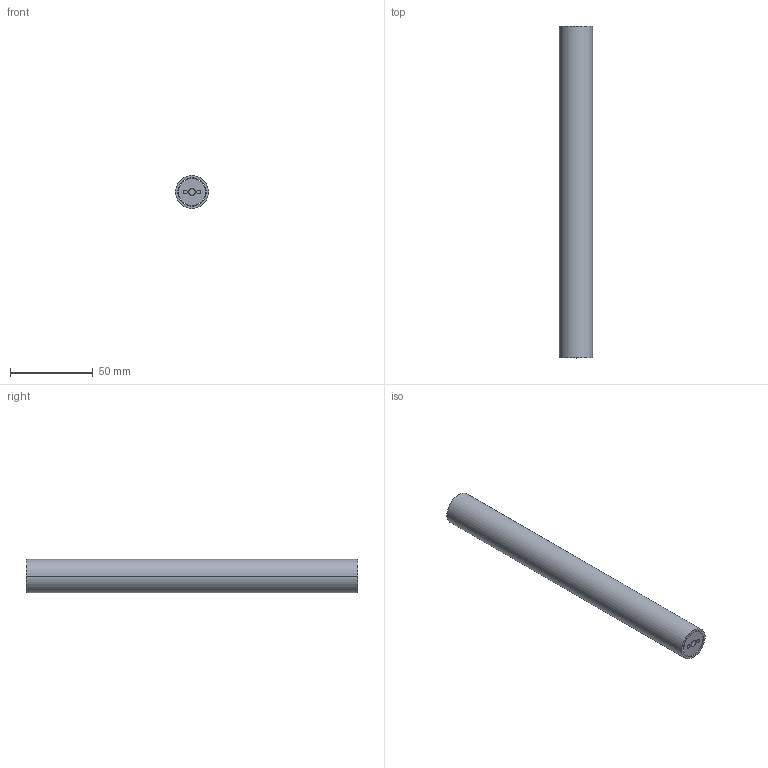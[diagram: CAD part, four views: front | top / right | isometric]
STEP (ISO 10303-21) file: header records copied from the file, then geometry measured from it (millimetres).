
FILE_DESCRIPTION((''),'2;1');
FILE_NAME('CORDINACILINDRO200','2025-05-13T11:22:01',('elena.baldelli'),(''),'CREO PARAMETRIC BY PTC INC, 2020354','CREO PARAMETRIC BY PTC INC, 2020354','');
FILE_SCHEMA(('CONFIG_CONTROL_DESIGN'));
Length unit declared in the file: millimetre
Products named in the file (1): CORDINACILINDRO200
Bounding box: 20 x 200 x 20 mm (x, y, z)
Surface area: 23622.1 mm2 (no closed solid volume)
Topology: 0 solids, 4 shells, 12 faces, 42 edges, 34 vertices
Faces by surface type: cylinder 8, plane 4
Entity records: 524 total; most frequent: DIRECTION 100, CARTESIAN_POINT 88, ORIENTED_EDGE 58, AXIS2_PLACEMENT_3D 46, EDGE_CURVE 42, VERTEX_POINT 34, CIRCLE 34, EDGE_LOOP 17
